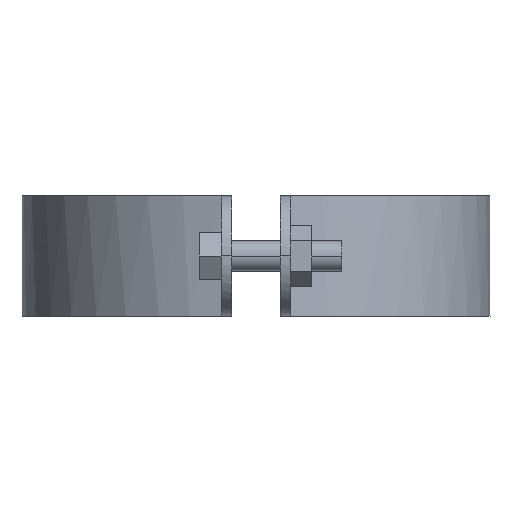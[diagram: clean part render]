
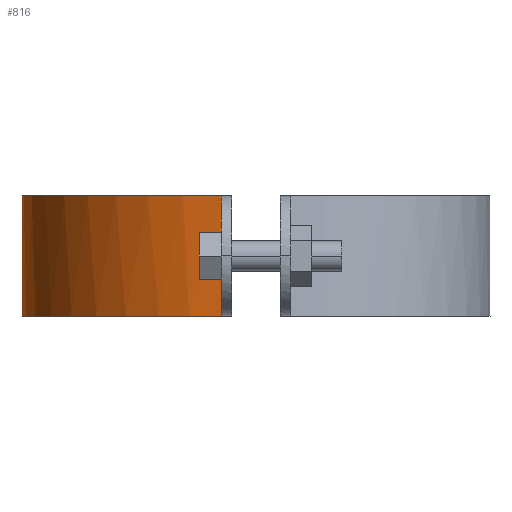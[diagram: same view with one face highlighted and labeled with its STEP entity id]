
A CAD part, left-side view. The second image highlights one B-rep face of the part: STEP entity #816.
In plain terms, the highlighted free-form (B-spline) face has degree [3, 1] with [4, 2] control points.
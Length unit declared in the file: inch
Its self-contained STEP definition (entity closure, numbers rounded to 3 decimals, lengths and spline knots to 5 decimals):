
#508=EDGE_CURVE('',#1295,#1296,#1297,.T.);
#694=EDGE_CURVE('',#1296,#1568,#1569,.T.);
#816=ADVANCED_FACE('',(#1725),#1726,.T.);
#922=EDGE_CURVE('',#1568,#1147,#1855,.T.);
#998=EDGE_CURVE('',#1295,#1147,#1943,.T.);
#1147=VERTEX_POINT('',#2127);
#1295=VERTEX_POINT('',#2378);
#1296=VERTEX_POINT('',#2379);
#1297=B_SPLINE_CURVE_WITH_KNOTS('',3,(#2380,#2381,#2382,#2383),.UNSPECIFIED.,.F.,.F.,(4,4),(0.0,1.0),.UNSPECIFIED.);
#1568=VERTEX_POINT('',#2892);
#1569=LINE('',#2893,#2894);
#1725=FACE_OUTER_BOUND('',#3168,.T.);
#1726=B_SPLINE_SURFACE_WITH_KNOTS('',3,1,((#3169,#3170),(#3171,#3172),(#3173,#3174),(#3175,#3176)),.UNSPECIFIED.,.F.,.F.,.F.,(4,4),(2,2),(0.0,1.0),(0.0,1.25),.UNSPECIFIED.);
#1855=B_SPLINE_CURVE_WITH_KNOTS('',3,(#3404,#3405,#3406,#3407),.UNSPECIFIED.,.F.,.F.,(4,4),(-1.0,-0.0),.UNSPECIFIED.);
#1943=LINE('',#3566,#3567);
#2127=CARTESIAN_POINT('',(3.31364,4.71397,1.24989));
#2378=CARTESIAN_POINT('',(3.31364,4.71397,0.00009));
#2379=CARTESIAN_POINT('',(0.52973,2.66674,0.00009));
#2380=CARTESIAN_POINT('',(3.31364,4.71397,0.00009));
#2381=CARTESIAN_POINT('',(1.97955,4.91739,0.00009));
#2382=CARTESIAN_POINT('',(0.73315,4.00085,0.00009));
#2383=CARTESIAN_POINT('',(0.52973,2.66674,0.00009));
#2892=CARTESIAN_POINT('',(0.52973,2.66674,1.24989));
#2893=CARTESIAN_POINT('',(0.52973,2.66674,0.0));
#2894=VECTOR('',#4178,1.0);
#3168=EDGE_LOOP('',(#4313,#4314,#4315,#4316));
#3169=CARTESIAN_POINT('',(3.31364,4.71397,0.0));
#3170=CARTESIAN_POINT('',(3.31364,4.71397,1.25));
#3171=CARTESIAN_POINT('',(1.97955,4.91739,0.0));
#3172=CARTESIAN_POINT('',(1.97955,4.91739,1.25));
#3173=CARTESIAN_POINT('',(0.73315,4.00085,0.0));
#3174=CARTESIAN_POINT('',(0.73315,4.00085,1.25));
#3175=CARTESIAN_POINT('',(0.52973,2.66674,0.0));
#3176=CARTESIAN_POINT('',(0.52973,2.66674,1.25));
#3404=CARTESIAN_POINT('',(0.52973,2.66674,1.24989));
#3405=CARTESIAN_POINT('',(0.73315,4.00085,1.24989));
#3406=CARTESIAN_POINT('',(1.97955,4.91739,1.24989));
#3407=CARTESIAN_POINT('',(3.31364,4.71397,1.24989));
#3566=CARTESIAN_POINT('',(3.31364,4.71397,0.0));
#3567=VECTOR('',#4610,1.0);
#4178=DIRECTION('',(0.0,0.0,1.0));
#4313=ORIENTED_EDGE('',*,*,#508,.T.);
#4314=ORIENTED_EDGE('',*,*,#694,.T.);
#4315=ORIENTED_EDGE('',*,*,#922,.T.);
#4316=ORIENTED_EDGE('',*,*,#998,.F.);
#4610=DIRECTION('',(0.0,0.0,1.0));
